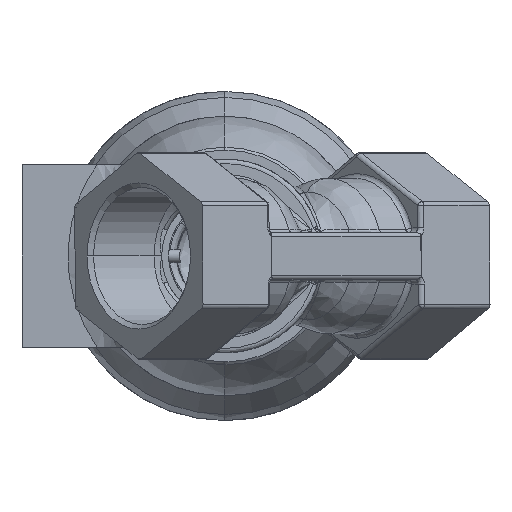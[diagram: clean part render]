
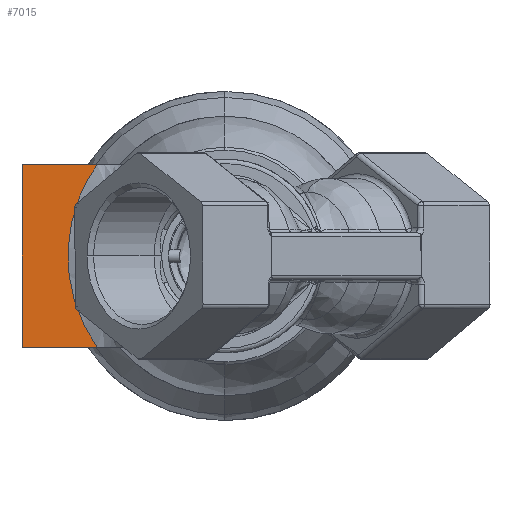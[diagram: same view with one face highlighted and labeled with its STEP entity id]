
A CAD part, front view. The second image highlights one B-rep face of the part: STEP entity #7015.
In plain terms, the highlighted planar face has unit normal (0, -1, 0).
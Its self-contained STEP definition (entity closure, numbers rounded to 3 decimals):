
#289 = CARTESIAN_POINT ( 'NONE',  ( 36.501, 115.572, 20.25 ) ) ;
#862 = CARTESIAN_POINT ( 'NONE',  ( -30.977, 115.572, -15.884 ) ) ;
#912 = CARTESIAN_POINT ( 'NONE',  ( -34.291, 115.572, -6.001 ) ) ;
#966 = CARTESIAN_POINT ( 'NONE',  ( -33.948, 115.572, 7.803 ) ) ;
#1255 = CARTESIAN_POINT ( 'NONE',  ( -31.053, 115.572, 15.734 ) ) ;
#1257 = AXIS2_PLACEMENT_3D ( 'NONE', #289, #16224, #15796 ) ;
#1278 = ORIENTED_EDGE ( 'NONE', *, *, #13008, .F. ) ;
#1608 = CARTESIAN_POINT ( 'NONE',  ( -45., 115.572, 20.25 ) ) ;
#1948 = EDGE_CURVE ( 'NONE', #13148, #2824, #5019, .T. ) ;
#2137 = EDGE_LOOP ( 'NONE', ( #14149, #10178, #1278, #3334 ) ) ;
#2156 = CARTESIAN_POINT ( 'NONE',  ( -31.974, 115.572, -13.819 ) ) ;
#2215 = CARTESIAN_POINT ( 'NONE',  ( -34.348, 115.572, -5.663 ) ) ;
#2216 = DIRECTION ( 'NONE',  ( -1., 0., 0. ) ) ;
#2273 = CARTESIAN_POINT ( 'NONE',  ( -33.309, 115.572, 10.121 ) ) ;
#2274 = CARTESIAN_POINT ( 'NONE',  ( 36.501, 115.572, 20.25 ) ) ;
#2551 = CARTESIAN_POINT ( 'NONE',  ( -30.216, 115.572, 17.372 ) ) ;
#2824 = VERTEX_POINT ( 'NONE', #11996 ) ;
#3334 = ORIENTED_EDGE ( 'NONE', *, *, #14748, .T. ) ;
#3456 = CARTESIAN_POINT ( 'NONE',  ( -32.813, 115.572, -11.628 ) ) ;
#3510 = CARTESIAN_POINT ( 'NONE',  ( -34.812, 115.572, -1.862 ) ) ;
#3566 = CARTESIAN_POINT ( 'NONE',  ( -33.137, 115.572, 10.669 ) ) ;
#3727 = VECTOR ( 'NONE', #2216, 1000. ) ;
#3758 = FACE_OUTER_BOUND ( 'NONE', #2137, .T. ) ;
#3857 = CARTESIAN_POINT ( 'NONE',  ( -28.316, 115.572, 20.25 ) ) ;
#4752 = CARTESIAN_POINT ( 'NONE',  ( -32.995, 115.572, -11.099 ) ) ;
#4809 = CARTESIAN_POINT ( 'NONE',  ( -34.756, 115.572, 2.322 ) ) ;
#4888 = CARTESIAN_POINT ( 'NONE',  ( -28.316, 115.572, -20.25 ) ) ;
#5019 = LINE ( 'NONE', #2274, #3727 ) ;
#5081 = CARTESIAN_POINT ( 'NONE',  ( -33.083, 115.572, 10.834 ) ) ;
#5390 = VECTOR ( 'NONE', #13182, 1000. ) ;
#5614 = LINE ( 'NONE', #15409, #5390 ) ;
#5703 = CARTESIAN_POINT ( 'NONE',  ( -45., 115.572, -20.25 ) ) ;
#5984 = CARTESIAN_POINT ( 'NONE',  ( -30.291, 115.572, -17.165 ) ) ;
#6051 = CARTESIAN_POINT ( 'NONE',  ( -33.048, 115.572, -10.941 ) ) ;
#6109 = CARTESIAN_POINT ( 'NONE',  ( -34.488, 115.572, 4.743 ) ) ;
#6392 = CARTESIAN_POINT ( 'NONE',  ( -32.317, 115.572, 12.995 ) ) ;
#7015 = ADVANCED_FACE ( 'NONE', ( #3758 ), #9763, .F. ) ;
#7286 = CARTESIAN_POINT ( 'NONE',  ( -30.829, 115.572, -16.169 ) ) ;
#7338 = CARTESIAN_POINT ( 'NONE',  ( -33.731, 115.572, -8.692 ) ) ;
#7392 = CARTESIAN_POINT ( 'NONE',  ( -34.403, 115.572, 5.318 ) ) ;
#7669 = CARTESIAN_POINT ( 'NONE',  ( -31.352, 115.572, 15.133 ) ) ;
#8410 = CARTESIAN_POINT ( 'NONE',  ( -28.819, 115.572, -19.547 ) ) ;
#8568 = CARTESIAN_POINT ( 'NONE',  ( -30.953, 115.572, -15.93 ) ) ;
#8627 = CARTESIAN_POINT ( 'NONE',  ( -34.231, 115.572, -6.339 ) ) ;
#8688 = CARTESIAN_POINT ( 'NONE',  ( -34.22, 115.572, 6.455 ) ) ;
#8955 = CARTESIAN_POINT ( 'NONE',  ( -31.104, 115.572, 15.634 ) ) ;
#9485 = EDGE_CURVE ( 'NONE', #14091, #13148, #12972, .T. ) ;
#9763 = PLANE ( 'NONE',  #1257 ) ;
#9847 = CARTESIAN_POINT ( 'NONE',  ( -31.41, 115.572, -15.036 ) ) ;
#9903 = CARTESIAN_POINT ( 'NONE',  ( -34.33, 115.572, -5.774 ) ) ;
#9951 = CARTESIAN_POINT ( 'NONE',  ( -33.537, 115.572, 9.352 ) ) ;
#10178 = ORIENTED_EDGE ( 'NONE', *, *, #1948, .T. ) ;
#10220 = CARTESIAN_POINT ( 'NONE',  ( -31.027, 115.572, 15.786 ) ) ;
#10992 = CARTESIAN_POINT ( 'NONE',  ( -28.316, 115.572, 20.25 ) ) ;
#11057 = CARTESIAN_POINT ( 'NONE',  ( -28.316, 115.572, -20.25 ) ) ;
#11110 = CARTESIAN_POINT ( 'NONE',  ( -32.547, 115.572, -12.364 ) ) ;
#11162 = CARTESIAN_POINT ( 'NONE',  ( -34.663, 115.572, -3.71 ) ) ;
#11223 = CARTESIAN_POINT ( 'NONE',  ( -33.189, 115.572, 10.505 ) ) ;
#11502 = CARTESIAN_POINT ( 'NONE',  ( -29.321, 115.572, 18.844 ) ) ;
#11996 = CARTESIAN_POINT ( 'NONE',  ( -45., 115.572, 20.25 ) ) ;
#12413 = CARTESIAN_POINT ( 'NONE',  ( -32.941, 115.572, -11.258 ) ) ;
#12468 = CARTESIAN_POINT ( 'NONE',  ( -34.812, 115.572, 0.931 ) ) ;
#12518 = CARTESIAN_POINT ( 'NONE',  ( -33.101, 115.572, 10.778 ) ) ;
#12972 = B_SPLINE_CURVE_WITH_KNOTS ( 'NONE', 3,
 ( #11057, #8410, #13616, #5984, #14892, #7286, #16185, #8568, #862, #9847, #2156, #11110, #3456, #12413, #4752, #13674, #6051, #14947, #7338, #16251, #8627, #912, #9903, #2215, #11162, #3510, #12468, #4809, #13726, #6109, #15009, #7392, #16308, #8688, #966, #9951, #2273, #11223, #3566, #12518, #5081, #14007, #6392, #15290, #7669, #16565, #8955, #1255, #10220, #2551, #11502, #3857 ),
 .UNSPECIFIED., .F., .F.,
 ( 4, 1, 1, 1, 1, 2, 2, 1, 1, 1, 1, 2, 2, 1, 1, 1, 2, 2, 2, 1, 1, 1, 2, 2, 1, 1, 1, 1, 2, 2, 1, 1, 1, 1, 2, 2, 4 ),
 ( 0., 0.063, 0.094, 0.109, 0.117, 0.121, 0.125, 0.188, 0.219, 0.234, 0.242, 0.246, 0.25, 0.312, 0.344, 0.359, 0.367, 0.375, 0.5, 0.562, 0.594, 0.609, 0.617, 0.625, 0.687, 0.719, 0.734, 0.742, 0.746, 0.75, 0.812, 0.844, 0.859, 0.867, 0.871, 0.875, 1. ),
 .UNSPECIFIED. ) ;
#13008 = EDGE_CURVE ( 'NONE', #15622, #2824, #15637, .T. ) ;
#13123 = DIRECTION ( 'NONE',  ( 0., 0., 1. ) ) ;
#13148 = VERTEX_POINT ( 'NONE', #10992 ) ;
#13182 = DIRECTION ( 'NONE',  ( 1., 0., 0. ) ) ;
#13616 = CARTESIAN_POINT ( 'NONE',  ( -29.531, 115.572, -18.468 ) ) ;
#13674 = CARTESIAN_POINT ( 'NONE',  ( -33.03, 115.572, -10.993 ) ) ;
#13726 = CARTESIAN_POINT ( 'NONE',  ( -34.594, 115.572, 3.938 ) ) ;
#14007 = CARTESIAN_POINT ( 'NONE',  ( -32.785, 115.572, 11.738 ) ) ;
#14091 = VERTEX_POINT ( 'NONE', #4888 ) ;
#14149 = ORIENTED_EDGE ( 'NONE', *, *, #9485, .T. ) ;
#14748 = EDGE_CURVE ( 'NONE', #15622, #14091, #5614, .T. ) ;
#14892 = CARTESIAN_POINT ( 'NONE',  ( -30.653, 115.572, -16.503 ) ) ;
#14947 = CARTESIAN_POINT ( 'NONE',  ( -33.353, 115.572, -10.014 ) ) ;
#15009 = CARTESIAN_POINT ( 'NONE',  ( -34.438, 115.572, 5.088 ) ) ;
#15290 = CARTESIAN_POINT ( 'NONE',  ( -31.688, 115.572, 14.426 ) ) ;
#15409 = CARTESIAN_POINT ( 'NONE',  ( 36.501, 115.572, -20.25 ) ) ;
#15621 = VECTOR ( 'NONE', #13123, 1000. ) ;
#15622 = VERTEX_POINT ( 'NONE', #5703 ) ;
#15637 = LINE ( 'NONE', #1608, #15621 ) ;
#15796 = DIRECTION ( 'NONE',  ( 0., 0., 1. ) ) ;
#16185 = CARTESIAN_POINT ( 'NONE',  ( -30.904, 115.572, -16.026 ) ) ;
#16224 = DIRECTION ( 'NONE',  ( 0., 1., 0. ) ) ;
#16251 = CARTESIAN_POINT ( 'NONE',  ( -34.08, 115.572, -7.127 ) ) ;
#16308 = CARTESIAN_POINT ( 'NONE',  ( -34.385, 115.572, 5.434 ) ) ;
#16565 = CARTESIAN_POINT ( 'NONE',  ( -31.179, 115.572, 15.484 ) ) ;
